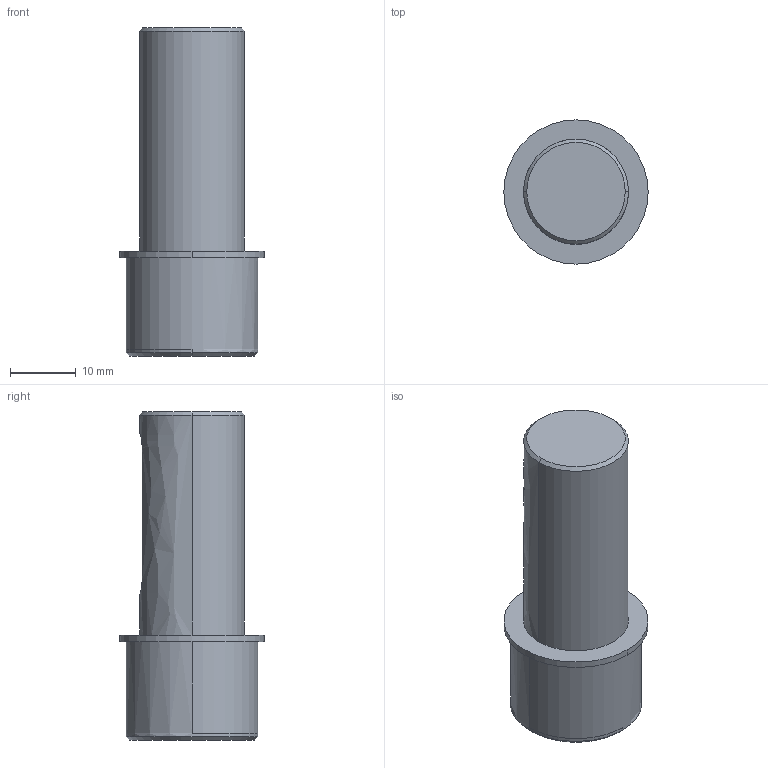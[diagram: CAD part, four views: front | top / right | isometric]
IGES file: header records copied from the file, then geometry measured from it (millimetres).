
Start section:  PTC IGES file: sj-60.igs
Global section: file name: sj-60.igs; native system: Pro/ENGINEER by Parametric Technology Corporation; preprocessor: 2008230; author: Ken; organization: Unknown; date: 20130812.102326; units: millimetre
Bounding box: 22 x 22 x 50 mm (x, y, z)
Volume: 11571 mm3; surface area: 3593.1 mm2
Topology: 1 solids, 1 shells, 19 faces, 42 edges, 28 vertices
Faces by surface type: revolution 12, bspline 7
